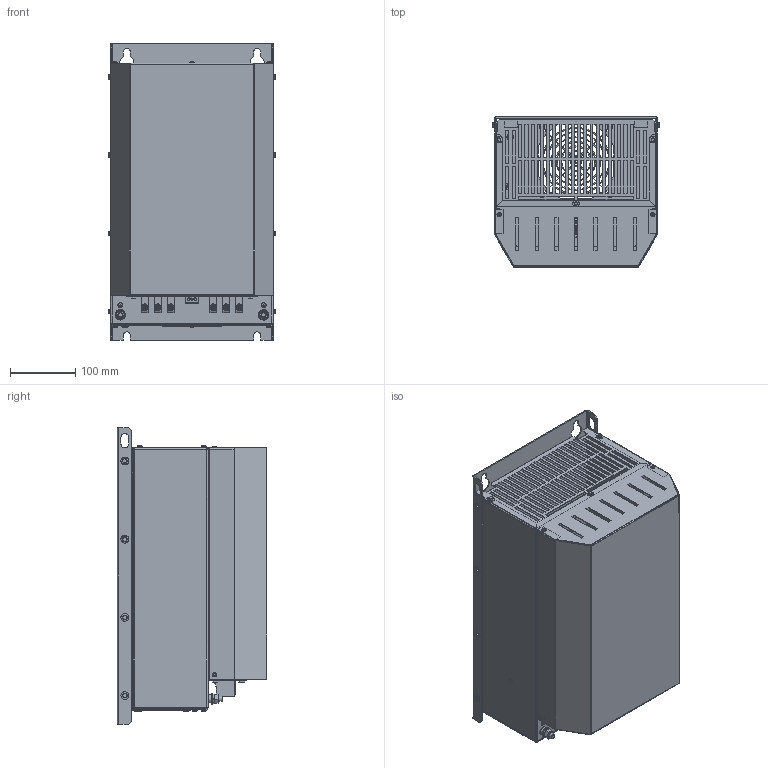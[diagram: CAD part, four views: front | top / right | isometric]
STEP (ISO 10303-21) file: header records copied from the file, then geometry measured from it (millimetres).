
FILE_DESCRIPTION((''),'2;1');
FILE_NAME('C:\Users\Samuel.Meier\Desktop\Fuer_Kamenka\EcoSine_Light_Typ_C.stp','2012-10-10T12:07:22',('Samuel.Meier'),(''),'Autodesk Inventor 2010','Autodesk Inventor 2010','');
FILE_SCHEMA(('AUTOMOTIVE_DESIGN { 1 0 10303 214 1 1 1 1 }'));
Length unit declared in the file: millimetre
Products named in the file (1): Bauteil15
Bounding box: 257.2 x 230 x 455 mm (x, y, z)
Volume: 842093.1 mm3; surface area: 1060015.1 mm2
Topology: 10 solids, 33 shells, 2828 faces, 7227 edges, 4460 vertices
Faces by surface type: plane 1416, cylinder 652, bspline 412, cone 143, sphere 108, torus 97
Full cylindrical faces by diameter (mm): 2.905 x1, 3.2 x4, 3.3 x1, 4 x37, 5 x16, 5.1 x6, 5.5 x9, 6.5 x4, 7 x5, 7.3 x2, 7.323 x2, 7.713 x1, 7.9 x13, 8 x5, 8.4 x2, 8.7 x8, 9.9 x2, 10 x22, 10.5 x1, 12 x8, 12.65 x2, 16 x2
Entity records: 96728 total; most frequent: CARTESIAN_POINT 29818, ORIENTED_EDGE 13434, DIRECTION 12416, EDGE_CURVE 6717, VERTEX_POINT 4380, AXIS2_PLACEMENT_3D 4246, VECTOR 3924, LINE 3924
